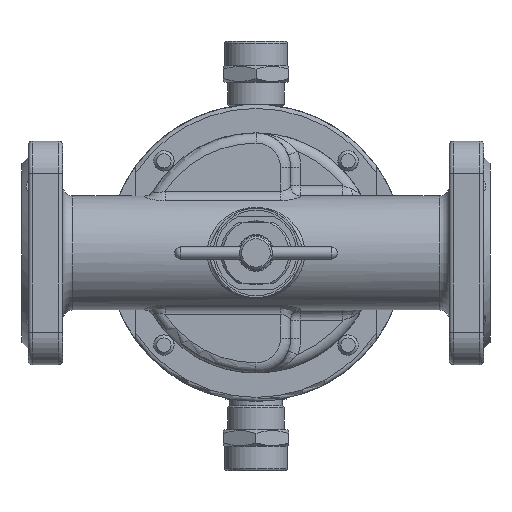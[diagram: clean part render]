
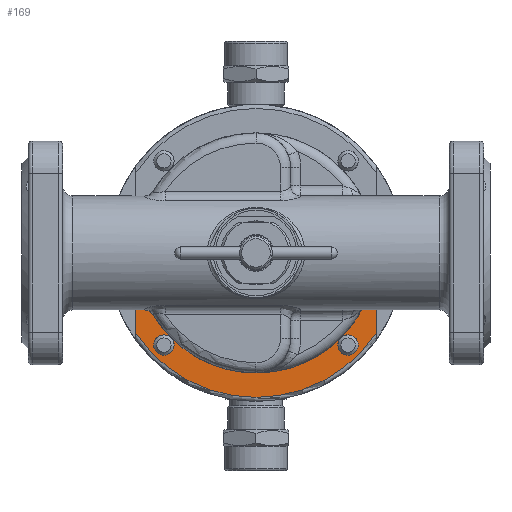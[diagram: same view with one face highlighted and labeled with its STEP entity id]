
A CAD part, front view. The second image highlights one B-rep face of the part: STEP entity #169.
In plain terms, the highlighted planar face has unit normal (0, -1, 0).
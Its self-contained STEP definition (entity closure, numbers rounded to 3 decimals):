
#169=ADVANCED_FACE('',(#4441),#4443,.F.);
#4441=FACE_OUTER_BOUND('',#4442,.T.);
#4442=EDGE_LOOP('',(#21396,#21397,#21398,#21399,#21400,#21401,#21402,#21403,#21404,
#21405));
#4443=PLANE('',#4444);
#4444=AXIS2_PLACEMENT_3D('',#4445,#4446,#4447);
#4445=CARTESIAN_POINT('',(0.,39.5,0.));
#4446=DIRECTION('',(0.,1.,0.));
#4447=DIRECTION('',(-1.,0.,0.));
#21396=ORIENTED_EDGE('',*,*,#32703,.F.);
#21397=ORIENTED_EDGE('',*,*,#32704,.F.);
#21398=ORIENTED_EDGE('',*,*,#32639,.F.);
#21399=ORIENTED_EDGE('',*,*,#32657,.F.);
#21400=ORIENTED_EDGE('',*,*,#32662,.F.);
#21401=ORIENTED_EDGE('',*,*,#32652,.F.);
#21402=ORIENTED_EDGE('',*,*,#32641,.F.);
#21403=ORIENTED_EDGE('',*,*,#32705,.F.);
#21404=ORIENTED_EDGE('',*,*,#32706,.F.);
#21405=ORIENTED_EDGE('',*,*,#32640,.F.);
#32639=EDGE_CURVE('',#37529,#37659,#37660,.T.);
#32640=EDGE_CURVE('',#37659,#37661,#37662,.T.);
#32641=EDGE_CURVE('',#37661,#37523,#37663,.T.);
#32652=EDGE_CURVE('',#37523,#37680,#37681,.T.);
#32657=EDGE_CURVE('',#37685,#37529,#37687,.T.);
#32662=EDGE_CURVE('',#37680,#37685,#37694,.T.);
#32703=EDGE_CURVE('',#37760,#37659,#37761,.T.);
#32704=EDGE_CURVE('',#37659,#37760,#37762,.T.);
#32705=EDGE_CURVE('',#37763,#37661,#37764,.T.);
#32706=EDGE_CURVE('',#37661,#37763,#37765,.T.);
#37523=VERTEX_POINT('',#45746);
#37529=VERTEX_POINT('',#45760);
#37659=VERTEX_POINT('',#46130);
#37660=CIRCLE('',#46131,59.);
#37661=VERTEX_POINT('',#46135);
#37662=CIRCLE('',#46136,59.);
#37663=CIRCLE('',#46140,59.);
#37680=VERTEX_POINT('',#46282);
#37681=LINE('',#46283,#46284);
#37685=VERTEX_POINT('',#46399);
#37687=LINE('',#46455,#46456);
#37694=CIRCLE('',#46475,71.);
#37760=VERTEX_POINT('',#46828);
#37761=CIRCLE('',#46829,5.);
#37762=CIRCLE('',#46833,5.);
#37763=VERTEX_POINT('',#46837);
#37764=CIRCLE('',#46838,5.);
#37765=CIRCLE('',#46842,5.);
#45746=CARTESIAN_POINT('',(59.,39.5,0.));
#45760=CARTESIAN_POINT('',(-59.,39.5,0.));
#46130=CARTESIAN_POINT('',(-41.719,39.5,-41.719));
#46131=AXIS2_PLACEMENT_3D('',#46132,#46133,#46134);
#46132=CARTESIAN_POINT('',(0.,39.5,0.));
#46133=DIRECTION('',(0.,-1.,0.));
#46134=DIRECTION('',(-1.,0.,0.));
#46135=CARTESIAN_POINT('',(41.719,39.5,-41.719));
#46136=AXIS2_PLACEMENT_3D('',#46137,#46138,#46139);
#46137=CARTESIAN_POINT('',(0.,39.5,0.));
#46138=DIRECTION('',(0.,-1.,0.));
#46139=DIRECTION('',(-0.707,0.,-0.707));
#46140=AXIS2_PLACEMENT_3D('',#46141,#46142,#46143);
#46141=CARTESIAN_POINT('',(0.,39.5,0.));
#46142=DIRECTION('',(0.,-1.,0.));
#46143=DIRECTION('',(0.707,0.,-0.707));
#46282=CARTESIAN_POINT('',(59.,39.5,-39.497));
#46283=CARTESIAN_POINT('',(59.,39.5,0.));
#46284=VECTOR('',#46285,1.);
#46285=DIRECTION('',(0.,0.,-1.));
#46399=CARTESIAN_POINT('',(-59.,39.5,-39.497));
#46455=CARTESIAN_POINT('',(-59.,39.5,-39.497));
#46456=VECTOR('',#46457,1.);
#46457=DIRECTION('',(0.,0.,1.));
#46475=AXIS2_PLACEMENT_3D('',#46476,#46477,#46478);
#46476=CARTESIAN_POINT('',(0.,39.5,0.));
#46477=DIRECTION('',(0.,1.,0.));
#46478=DIRECTION('',(0.831,0.,-0.556));
#46828=CARTESIAN_POINT('',(-45.255,39.5,-50.255));
#46829=AXIS2_PLACEMENT_3D('',#46830,#46831,#46832);
#46830=CARTESIAN_POINT('',(-45.255,39.5,-45.255));
#46831=DIRECTION('',(0.,-1.,0.));
#46832=DIRECTION('',(0.,0.,-1.));
#46833=AXIS2_PLACEMENT_3D('',#46834,#46835,#46836);
#46834=CARTESIAN_POINT('',(-45.255,39.5,-45.255));
#46835=DIRECTION('',(0.,-1.,0.));
#46836=DIRECTION('',(0.707,0.,0.707));
#46837=CARTESIAN_POINT('',(50.255,39.5,-45.255));
#46838=AXIS2_PLACEMENT_3D('',#46839,#46840,#46841);
#46839=CARTESIAN_POINT('',(45.255,39.5,-45.255));
#46840=DIRECTION('',(0.,-1.,0.));
#46841=DIRECTION('',(1.,0.,0.));
#46842=AXIS2_PLACEMENT_3D('',#46843,#46844,#46845);
#46843=CARTESIAN_POINT('',(45.255,39.5,-45.255));
#46844=DIRECTION('',(0.,-1.,0.));
#46845=DIRECTION('',(-0.707,0.,0.707));
